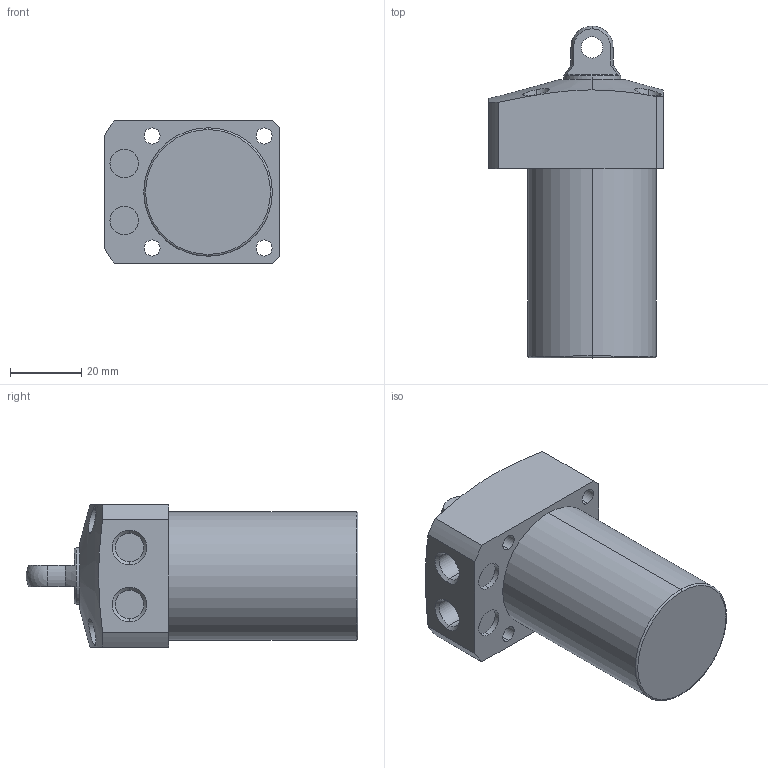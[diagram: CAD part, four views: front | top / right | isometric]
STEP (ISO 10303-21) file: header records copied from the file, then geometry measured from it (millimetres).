
FILE_DESCRIPTION (( 'STEP AP203' ), '1' );
FILE_NAME ('CLL-036CP-045.STEP', '2020-01-03T12:42:48', ( '' ), ( '' ), 'SwSTEP 2.0', 'SolidWorks 2015', '' );
FILE_SCHEMA (( 'CONFIG_CONTROL_DESIGN' ));
Length unit declared in the file: millimetre
Products named in the file (1): CLL-036CP-045
Bounding box: 49 x 93 x 40 mm (x, y, z)
Volume: 95336.1 mm3; surface area: 16042 mm2
Topology: 1 solids, 1 shells, 67 faces, 162 edges, 105 vertices
Faces by surface type: cylinder 34, plane 21, cone 8, sphere 2, torus 2
Entity records: 2347 total; most frequent: CARTESIAN_POINT 663, DIRECTION 354, ORIENTED_EDGE 316, EDGE_CURVE 158, AXIS2_PLACEMENT_3D 148, VERTEX_POINT 103, EDGE_LOOP 87, CIRCLE 80
